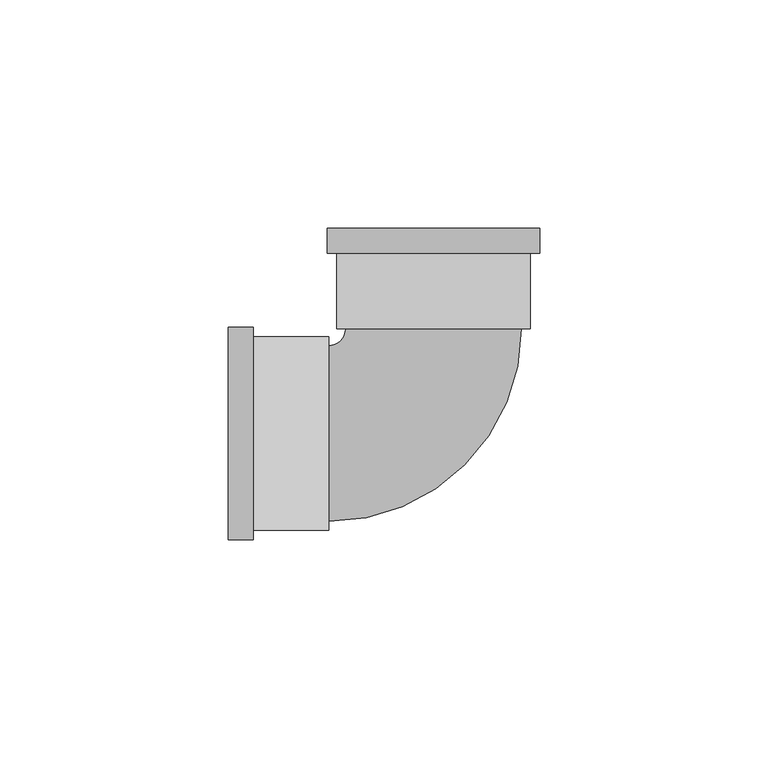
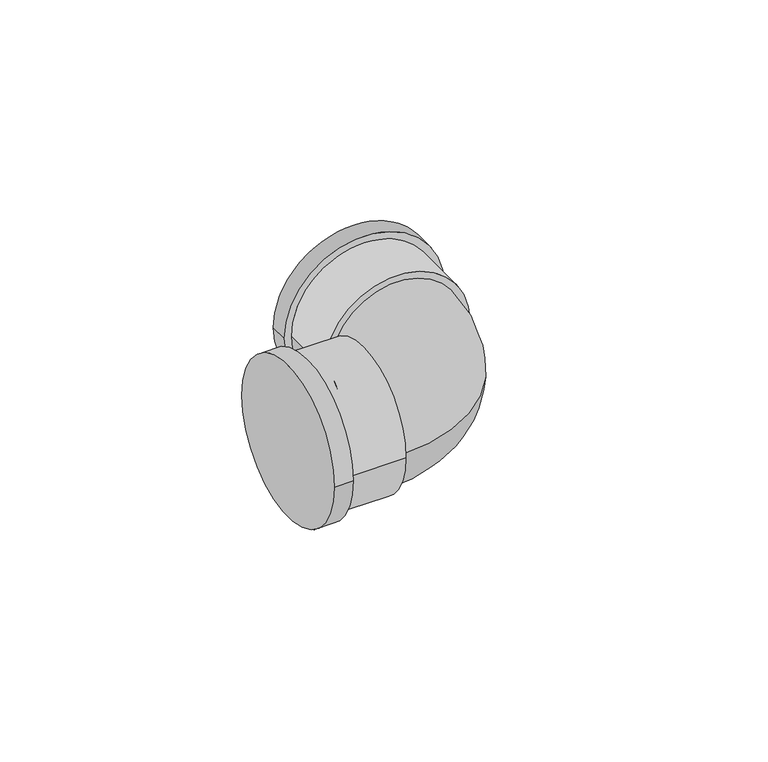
"""IFC4 building model written with IfcOpenShell, lengths in millimetres: pipe fitting geometry, Cotovelo - PVC - CW : Padrão."""

from ifc_helpers import new_model, si_unit, point, frame, origin, place, context, project, spatial, circle_curve, ellipse_curve, trimmed, source, transform, mapped, element, save
from ifc_brep_helpers import plane_surface, cylinder_surface, revolved_surface, advanced_brep


def pipe_fitting_6062cb46(model_context):
    return source(origin(), model_context, "Body", "AdvancedBrep", [
        advanced_brep(
        [(-45.0001779, -23.2925, 0.0), (-45.0001779, 23.2925, 0.0), (-39.5001779, -23.2925, 0.0), (-39.5001779, 23.2925, 0.0), (-39.5001779, -21.175, 0.0), (-39.5001779, 21.175, 0.0), (-23.0001779, 21.175, 0.0), (-23.0001779, -21.175, 0.0), (-23.0001779, -19.25, 0.0), (-23.0001779, 19.25, 0.0), (-19.2501779, 23.000029, 0.0), (19.2498221, 23.0003269, 0.0), (21.1748221, 23.0003418, 0.0), (-21.1751779, 23.0000141, 0.0), (-23.2928481, 44.9999977, 0.0), (23.2921519, 45.0003581, 0.0), (21.1746944, 39.5003418, 0.0), (-21.1753056, 39.5000141, 0.0), (-23.2928056, 39.4999977, 0.0), (23.2921944, 39.5003581, 0.0)],
        [
            (0, 1, circle_curve(frame((-45.0001779, 0.0, 0.0), z_axis=(-1.0, 0.0, 0.0), x_axis=(0.0, 1.0, 0.0)), 23.2925)),
            (1, 0, circle_curve(frame((-45.0001779, 0.0, 0.0), z_axis=(-1.0, 0.0, 0.0), x_axis=(0.0, 1.0, 0.0)), 23.2925)),
            (2, 3, circle_curve(frame((-39.5001779, 0.0, 0.0), z_axis=(1.0, 0.0, 0.0), x_axis=(0.0, 1.0, 0.0)), 23.2925)),
            (3, 2, circle_curve(frame((-39.5001779, 0.0, 0.0), z_axis=(1.0, 0.0, 0.0), x_axis=(0.0, 1.0, 0.0)), 23.2925)),
            (4, 5, circle_curve(frame((-39.5001779, 0.0, 0.0), z_axis=(-1.0, 0.0, 0.0), x_axis=(0.0, -1.0, 0.0)), 21.175)),
            (5, 4, circle_curve(frame((-39.5001779, 0.0, 0.0), z_axis=(-1.0, 0.0, 0.0), x_axis=(0.0, -1.0, 0.0)), 21.175)),
            (0, 2),
            (3, 1),
            (6, 7, circle_curve(frame((-23.0001779, 0.0, 0.0), z_axis=(1.0, 0.0, 0.0), x_axis=(0.0, -1.0, 0.0)), 21.175)),
            (7, 6, circle_curve(frame((-23.0001779, 0.0, 0.0), z_axis=(1.0, 0.0, 0.0), x_axis=(0.0, -1.0, 0.0)), 21.175)),
            (8, 9, circle_curve(frame((-23.0001779, 0.0, 0.0), z_axis=(-1.0, 0.0, 0.0), x_axis=(0.0, 1.0, 0.0)), 19.25)),
            (9, 8, circle_curve(frame((-23.0001779, 0.0, 0.0), z_axis=(-1.0, 0.0, 0.0), x_axis=(0.0, 1.0, 0.0)), 19.25)),
            (6, 5),
            (4, 7),
            (10, 9, circle_curve(frame((-23.0001779, 23.0, 0.0), z_axis=(0.0, 0.0, -1.0), x_axis=(0.0, -1.0, 0.0)), 3.75)),
            (8, 11, circle_curve(frame((-23.0001779, 23.0, 0.0), z_axis=(0.0, 0.0, 1.0), x_axis=(0.0, -1.0, 0.0)), 42.25)),
            (11, 10, circle_curve(frame((-0.0001779, 23.0001779, 0.0), z_axis=(7.736412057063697e-06, -0.9999999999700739, 0.0), x_axis=(-0.9999999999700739, -7.736412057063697e-06, 0.0)), 19.25)),
            (10, 11, circle_curve(frame((-0.0001779, 23.0001779, 0.0), z_axis=(7.736412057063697e-06, -0.9999999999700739, 0.0), x_axis=(-0.9999999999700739, -7.736412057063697e-06, 0.0)), 19.25)),
            (12, 13, circle_curve(frame((-0.0001779, 23.0001779, 0.0), z_axis=(7.736412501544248e-06, -0.999999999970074, 0.0), x_axis=(-0.999999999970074, -7.736412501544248e-06, 0.0)), 21.175)),
            (13, 12, circle_curve(frame((-0.0001779, 23.0001779, 0.0), z_axis=(7.736412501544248e-06, -0.999999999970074, 0.0), x_axis=(-0.999999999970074, -7.736412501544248e-06, 0.0)), 21.175)),
            (14, 15, circle_curve(frame((-0.0003481, 45.0001779, 0.0), z_axis=(-7.73641204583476e-06, 0.999999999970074, 0.0), x_axis=(0.999999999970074, 7.73641204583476e-06, 0.0)), 23.2925)),
            (15, 14, circle_curve(frame((-0.0003481, 45.0001779, 0.0), z_axis=(-7.73641204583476e-06, 0.999999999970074, 0.0), x_axis=(0.999999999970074, 7.73641204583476e-06, 0.0)), 23.2925)),
            (12, 16),
            (16, 17, circle_curve(frame((-0.0003056, 39.5001779, 0.0), z_axis=(7.736412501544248e-06, -0.999999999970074, 0.0), x_axis=(-0.999999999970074, -7.736412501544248e-06, 0.0)), 21.175)),
            (17, 13),
            (17, 16, circle_curve(frame((-0.0003056, 39.5001779, 0.0), z_axis=(7.736412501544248e-06, -0.999999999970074, 0.0), x_axis=(-0.999999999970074, -7.736412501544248e-06, 0.0)), 21.175)),
            (18, 19, circle_curve(frame((-0.0003056, 39.5001779, 0.0), z_axis=(7.73641204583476e-06, -0.999999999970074, 0.0), x_axis=(0.999999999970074, 7.73641204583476e-06, 0.0)), 23.2925)),
            (19, 18, circle_curve(frame((-0.0003056, 39.5001779, 0.0), z_axis=(7.73641204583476e-06, -0.999999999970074, 0.0), x_axis=(0.999999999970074, 7.73641204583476e-06, 0.0)), 23.2925)),
            (14, 18),
            (19, 15),
        ],
        [
            plane_surface(frame((-45.0001779, 0.0, 0.0), z_axis=(-1.0, 0.0, 0.0), x_axis=(0.0, 0.0, 1.0))),
            plane_surface(frame((-39.5001779, 0.0, 0.0), z_axis=(1.0, 0.0, 0.0), x_axis=(0.0, 0.0, 1.0))),
            cylinder_surface(frame((-45.0001779, 0.0, 0.0), z_axis=(-1.0, 0.0, 0.0), x_axis=(0.0, 1.0, 0.0)), 23.2925),
            plane_surface(frame((-23.0001779, 0.0, 0.0), z_axis=(1.0, 0.0, 0.0), x_axis=(0.0, 0.0, 1.0))),
            cylinder_surface(frame((-23.0001779, 0.0, 0.0), z_axis=(1.0, 0.0, 0.0), x_axis=(0.0, -1.0, 0.0)), 21.175),
            revolved_surface(trimmed(ellipse_curve(frame((-23.0001779, 0.0, 0.0), z_axis=(-1.0, 0.0, 0.0), x_axis=(0.0, 1.0, 0.0)), 19.25, 19.25), [point((-23.0001779, -19.25, 0.0))], [point((-23.0001779, 19.25, 0.0))], True, "CARTESIAN"), (-23.0001779, 23.0, 0.0), (0.0, 0.0, 1.0)),
            revolved_surface(trimmed(ellipse_curve(frame((-23.0001779, 0.0, 0.0), z_axis=(-1.0, 0.0, 0.0), x_axis=(0.0, 1.0, 0.0)), 19.25, 19.25), [point((-23.0001779, 19.25, 0.0))], [point((-23.0001779, -19.25, 0.0))], True, "CARTESIAN"), (-23.0001779, 23.0, 0.0), (0.0, 0.0, 1.0)),
            plane_surface(frame((-0.0001779, 23.0001779, 0.0), z_axis=(7.736412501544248e-06, -0.999999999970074, 0.0), x_axis=(0.0, 0.0, 1.0))),
            plane_surface(frame((-0.0003481, 45.0001779, 0.0), z_axis=(-7.736412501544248e-06, 0.999999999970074, 0.0), x_axis=(0.0, 0.0, 1.0))),
            cylinder_surface(frame((-0.0001779, 23.0001779, 0.0), z_axis=(7.736412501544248e-06, -0.999999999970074, 0.0), x_axis=(-0.999999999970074, -7.736412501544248e-06, 0.0)), 21.175),
            plane_surface(frame((-0.0003056, 39.5001779, 0.0), z_axis=(7.73641204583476e-06, -0.999999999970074, 0.0), x_axis=(0.0, 0.0, 1.0))),
            cylinder_surface(frame((-0.0003481, 45.0001779, 0.0), z_axis=(-7.73641204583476e-06, 0.999999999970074, 0.0), x_axis=(0.999999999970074, 7.73641204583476e-06, 0.0)), 23.2925),
        ],
        [
            (0, [[1, 2]]),
            (1, [[3, 4], [5, 6]]),
            (2, [[-1, 7, -4, 8]]),
            (2, [[-2, -8, -3, -7]]),
            (3, [[9, 10], [11, 12]]),
            (4, [[-9, 13, -5, 14]]),
            (4, [[-10, -14, -6, -13]]),
            (5, [[15, -11, 16, 17]]),
            (6, [[-15, 18, -16, -12]]),
            (7, [[19, 20], [-17, -18]]),
            (8, [[21, 22]]),
            (9, [[-19, 23, 24, 25]]),
            (9, [[-20, -25, 26, -23]]),
            (10, [[27, 28], [-24, -26]]),
            (11, [[-21, 29, -28, 30]]),
            (11, [[-22, -30, -27, -29]]),
        ],
    ),
    ])


if __name__ == "__main__":
    model = new_model("IFC4")
    model_context = context("Model", 3, world=origin())
    ifc_project = project(units=[si_unit("LENGTHUNIT", "METRE", prefix="MILLI")], contexts=[model_context])
    site = spatial("IfcSite", under=ifc_project)
    building = spatial("IfcBuilding", under=site)
    placement = place(None, origin())
    pipe_fitting_shape = pipe_fitting_6062cb46(model_context)
    element("IfcPipeFitting", 1, ObjectType="Cotovelo - PVC - CW : Padrão", at=placement, inside=building, context=model_context, shape_type="MappedRepresentation", body=[
        mapped(pipe_fitting_shape, transform((0.0, 0.0, 0.0), x_axis=(1.0, 0.0, 0.0), y_axis=(0.0, 1.0, 0.0), z_axis=(0.0, 0.0, 1.0))),
    ])
    save(model, "model.ifc")
